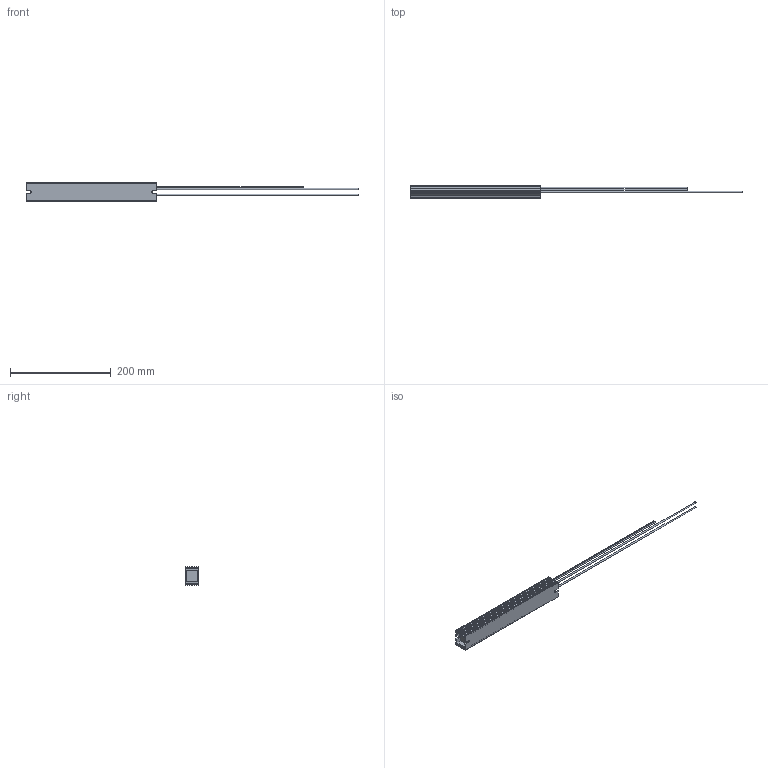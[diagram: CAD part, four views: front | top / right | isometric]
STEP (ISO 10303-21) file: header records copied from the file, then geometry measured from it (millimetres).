
FILE_DESCRIPTION(/* description */ (''),/* implementation_level */ '2;1');
FILE_NAME(/* name */ 'C:\_Vault\Dati\CATALOGO\RFZC\3D\RFZTC260.stp',/* time_stamp */ '2014-03-27T17:46:52+01:00',/* author */ ('stefano'),/* organization */ (''),/* preprocessor_version */ 'ST-DEVELOPER v15.2',/* originating_system */ 'Autodesk Inventor 2014',/* authorisation */ '');
FILE_SCHEMA (('AUTOMOTIVE_DESIGN { 1 0 10303 214 3 1 1 }'));
Length unit declared in the file: millimetre
Products named in the file (1): RFZTC260
Bounding box: 660 x 27 x 36 mm (x, y, z)
Volume: 219054.7 mm3; surface area: 68501.4 mm2
Topology: 1 solids, 1 shells, 98 faces, 268 edges, 176 vertices
Faces by surface type: plane 72, cylinder 26
Full cylindrical faces by diameter (mm): 2 x2, 3 x2
Entity records: 3215 total; most frequent: CARTESIAN_POINT 539, ORIENTED_EDGE 528, DIRECTION 522, EDGE_CURVE 264, LINE 204, VECTOR 204, VERTEX_POINT 176, AXIS2_PLACEMENT_3D 159
